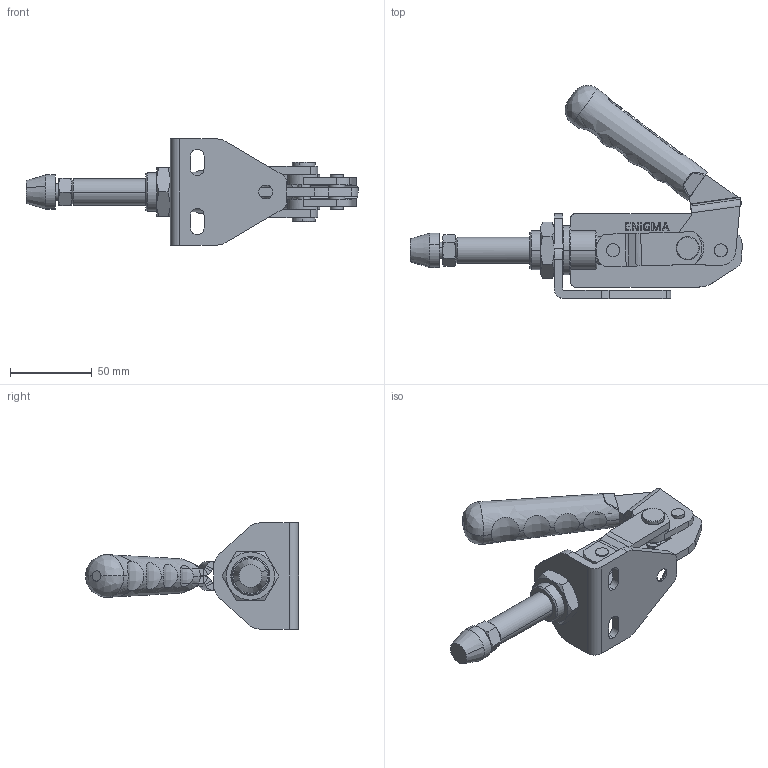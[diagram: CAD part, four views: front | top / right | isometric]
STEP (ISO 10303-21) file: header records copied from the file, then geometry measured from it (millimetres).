
FILE_DESCRIPTION (( 'STEP AP203' ), '1' );
FILE_NAME ('16816.STEP', '2022-11-29T05:49:32', ( '' ), ( '' ), 'SwSTEP 2.0', 'SolidWorks 2023', '' );
FILE_SCHEMA (( 'CONFIG_CONTROL_DESIGN' ));
Length unit declared in the file: millimetre
Products named in the file (15): 1610_G_X2_00f6_X0_vde_Varsay_X2_0131_X0_lan; 1610_Pim_14x10x8_Varsay_X2_0131_X0_lan; Bask_X2_0131_X0_ M10_Varsay_X2_0131_X0_lan; 1610_Flans_Varsay_X2_0131_X0_lan; M24x1_5x8 Somun_Varsay_X2_0131_X0_lan; 1610_Hareket Kolu_Sol_Varsay_X2_0131_X0_lan; 1610_Yatak_Varsay_X2_0131_X0_lan; 16816; 1610_Kademeli Pim Uzun_Varsay_X2_0131_X0_lan; 1610_Mafsal_Varsay_X2_0131_X0_lan; C95_Yeni_Tutamak_Varsay_X2_0131_X0_lan; 1610_Mil_Varsay_X2_0131_X0_lan; Aynalama1610_Hareket Kolu_Sol_Varsay_X2_0131_X0_lan; 1610_Kademeli Pim K_X2_0131_X0_sa_Varsay_X2_0131_X0_lan; M10 Somun_Varsay_X2_0131_X0_lan
Assembly tree (16 placements, depth 2):
  16816
    1610_Flans_Varsay_X2_0131_X0_lan
    1610_Yatak_Varsay_X2_0131_X0_lan
    1610_G_X2_00f6_X0_vde_Varsay_X2_0131_X0_lan
    1610_Mafsal_Varsay_X2_0131_X0_lan  x2
    1610_Mil_Varsay_X2_0131_X0_lan
    1610_Hareket Kolu_Sol_Varsay_X2_0131_X0_lan
    Aynalama1610_Hareket Kolu_Sol_Varsay_X2_0131_X0_lan
    M10 Somun_Varsay_X2_0131_X0_lan
    Bask_X2_0131_X0_ M10_Varsay_X2_0131_X0_lan
    M24x1_5x8 Somun_Varsay_X2_0131_X0_lan
    1610_Kademeli Pim K_X2_0131_X0_sa_Varsay_X2_0131_X0_lan
    1610_Kademeli Pim Uzun_Varsay_X2_0131_X0_lan
    1610_Pim_14x10x8_Varsay_X2_0131_X0_lan  x2
    C95_Yeni_Tutamak_Varsay_X2_0131_X0_lan
Bounding box: 203.5 x 130.61 x 65 mm (x, y, z)
Volume: 162547.2 mm3; surface area: 78609.2 mm2
Topology: 16 solids, 16 shells, 677 faces, 1738 edges, 1131 vertices
Faces by surface type: plane 315, bspline 152, cylinder 151, cone 59
Entity records: 32893 total; most frequent: CARTESIAN_POINT 16431, ORIENTED_EDGE 3292, DIRECTION 2671, EDGE_CURVE 1646, VERTEX_POINT 1075, LINE 959, VECTOR 959, AXIS2_PLACEMENT_3D 856
